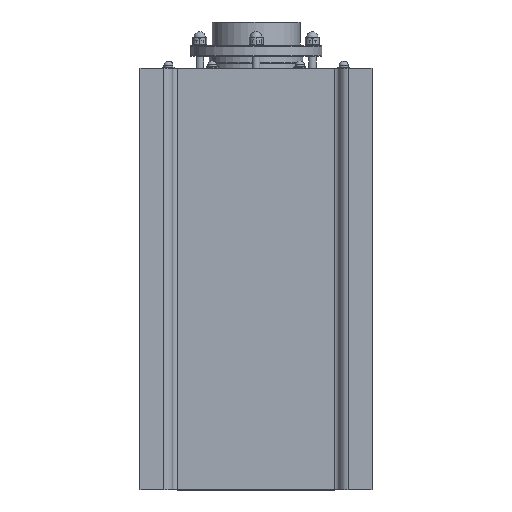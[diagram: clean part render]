
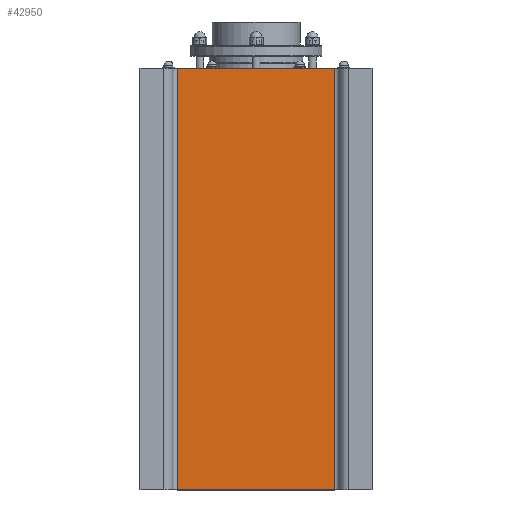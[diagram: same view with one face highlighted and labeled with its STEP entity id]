
A CAD part, top view. The second image highlights one B-rep face of the part: STEP entity #42950.
In plain terms, the highlighted planar face has unit normal (0, 0, 1).
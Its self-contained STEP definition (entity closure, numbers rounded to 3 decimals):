
#2503=LINE('',#65884,#5758);
#2507=LINE('',#65899,#5762);
#2510=LINE('',#65905,#5765);
#2511=LINE('',#65906,#5766);
#5758=VECTOR('',#52762,10.);
#5762=VECTOR('',#52782,10.);
#5765=VECTOR('',#52787,10.);
#5766=VECTOR('',#52788,10.);
#9552=FACE_OUTER_BOUND('',#12256,.T.);
#12256=EDGE_LOOP('',(#29019,#29020,#29021,#29022));
#17295=VERTEX_POINT('',#65881);
#17296=VERTEX_POINT('',#65883);
#17299=VERTEX_POINT('',#65898);
#17301=VERTEX_POINT('',#65904);
#21649=EDGE_CURVE('',#17296,#17295,#2503,.T.);
#21656=EDGE_CURVE('',#17296,#17299,#2507,.T.);
#21659=EDGE_CURVE('',#17301,#17295,#2510,.T.);
#21660=EDGE_CURVE('',#17301,#17299,#2511,.T.);
#29019=ORIENTED_EDGE('',*,*,#21649,.T.);
#29020=ORIENTED_EDGE('',*,*,#21659,.F.);
#29021=ORIENTED_EDGE('',*,*,#21660,.T.);
#29022=ORIENTED_EDGE('',*,*,#21656,.F.);
#38695=PLANE('',#46181);
#42950=ADVANCED_FACE('',(#9552),#38695,.F.);
#46181=AXIS2_PLACEMENT_3D('',#65903,#52785,#52786);
#52762=DIRECTION('',(0.,-1.,0.));
#52782=DIRECTION('',(1.,0.,0.));
#52785=DIRECTION('center_axis',(0.,0.,
-1.));
#52786=DIRECTION('ref_axis',(1.,0.,0.));
#52787=DIRECTION('',(-1.,0.,0.));
#52788=DIRECTION('',(0.,1.,0.));
#65881=CARTESIAN_POINT('',(-169.89,-676.488,235.242));
#65883=CARTESIAN_POINT('',(-169.89,223.512,235.242));
#65884=CARTESIAN_POINT('',(-169.89,-1.488,235.242));
#65898=CARTESIAN_POINT('',(165.11,223.512,235.242));
#65899=CARTESIAN_POINT('',(-189.89,223.512,235.242));
#65903=CARTESIAN_POINT('Origin',(-2.39,-226.488,235.242));
#65904=CARTESIAN_POINT('',(165.11,-676.488,235.242));
#65905=CARTESIAN_POINT('',(185.11,-676.488,235.242));
#65906=CARTESIAN_POINT('',(165.11,-451.488,235.242));
